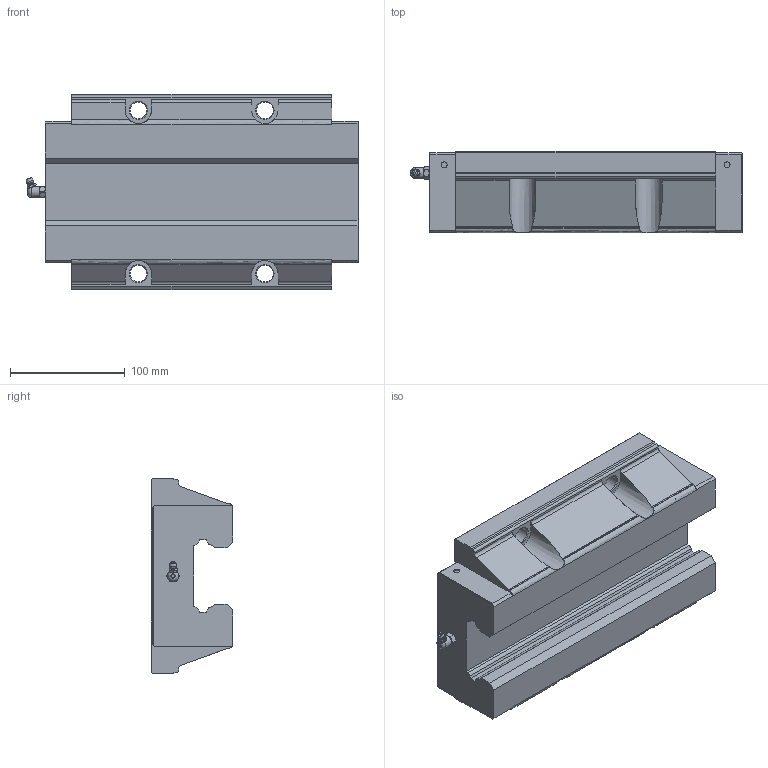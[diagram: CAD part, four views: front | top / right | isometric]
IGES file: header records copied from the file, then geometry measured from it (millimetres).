
Start section: Data from Parasolid IGES Translator 26.0.171, Copyright(c) 2006 Siemens PLM Software. All Rights Reserved.
Global section: file name: SHS65LC1SS(GK) BLOCK(B-PT1_81).igs; native system: By Siemens PLM Incorporated; preprocessor: XPlus GENERIC/IGES 26.0.171; author: Noname; organization: Noname; date: 20240514.043649; units: millimetre
Bounding box: 288.7 x 71 x 170 mm (x, y, z)
Surface area: 165400.2 mm2 (no closed solid volume)
Topology: 0 solids, 0 shells, 168 faces, 905 edges, 874 vertices
Faces by surface type: extrusion 105, revolution 63
